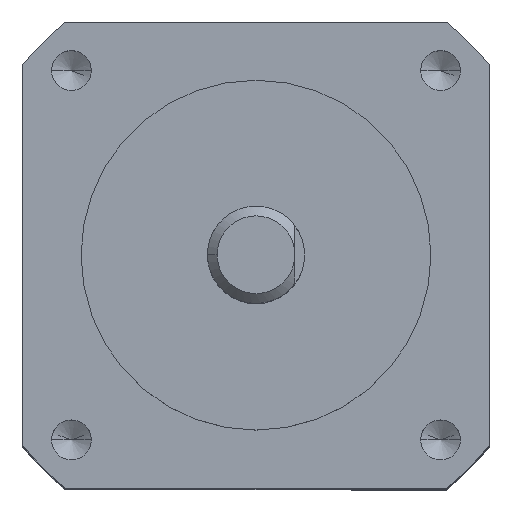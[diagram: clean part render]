
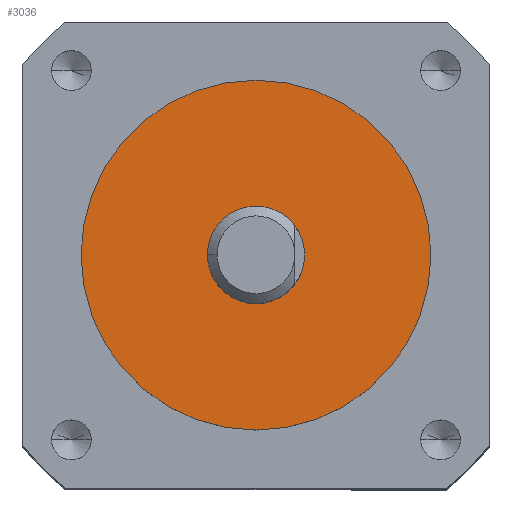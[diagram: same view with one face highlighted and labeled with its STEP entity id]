
A CAD part, top view. The second image highlights one B-rep face of the part: STEP entity #3036.
In plain terms, the highlighted planar face has unit normal (0, 0, 1).
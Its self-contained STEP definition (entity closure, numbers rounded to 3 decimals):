
#113 = CIRCLE ( 'NONE', #358, 9. ) ;
#191 = VERTEX_POINT ( 'NONE', #2534 ) ;
#219 = CARTESIAN_POINT ( 'NONE',  ( 2.5, 0., 1.5 ) ) ;
#344 = EDGE_LOOP ( 'NONE', ( #391, #1770 ) ) ;
#348 = CARTESIAN_POINT ( 'NONE',  ( 0., 0., 1.5 ) ) ;
#358 = AXIS2_PLACEMENT_3D ( 'NONE', #348, #2063, #599 ) ;
#391 = ORIENTED_EDGE ( 'NONE', *, *, #2173, .T. ) ;
#401 = EDGE_CURVE ( 'NONE', #1177, #812, #2716, .T. ) ;
#491 = CARTESIAN_POINT ( 'NONE',  ( -2.5, 0., 1.5 ) ) ;
#496 = AXIS2_PLACEMENT_3D ( 'NONE', #931, #919, #708 ) ;
#536 = FACE_BOUND ( 'NONE', #1650, .T. ) ;
#599 = DIRECTION ( 'NONE',  ( 1., 0., 0. ) ) ;
#665 = PLANE ( 'NONE',  #2402 ) ;
#677 = DIRECTION ( 'NONE',  ( 1., 0., 0. ) ) ;
#688 = DIRECTION ( 'NONE',  ( 0., 0., -1. ) ) ;
#708 = DIRECTION ( 'NONE',  ( 1., 0., 0. ) ) ;
#709 = CARTESIAN_POINT ( 'NONE',  ( 0., 0., 1.5 ) ) ;
#746 = CARTESIAN_POINT ( 'NONE',  ( 0., 0., 1.5 ) ) ;
#812 = VERTEX_POINT ( 'NONE', #219 ) ;
#881 = EDGE_CURVE ( 'NONE', #812, #1177, #2636, .T. ) ;
#916 = AXIS2_PLACEMENT_3D ( 'NONE', #746, #2478, #1007 ) ;
#919 = DIRECTION ( 'NONE',  ( 0., 0., -1. ) ) ;
#931 = CARTESIAN_POINT ( 'NONE',  ( 0., 0., 1.5 ) ) ;
#1007 = DIRECTION ( 'NONE',  ( 1., 0., 0. ) ) ;
#1167 = DIRECTION ( 'NONE',  ( 1., 0., 0. ) ) ;
#1177 = VERTEX_POINT ( 'NONE', #491 ) ;
#1312 = CARTESIAN_POINT ( 'NONE',  ( 9., 0., 1.5 ) ) ;
#1341 = ORIENTED_EDGE ( 'NONE', *, *, #881, .T. ) ;
#1650 = EDGE_LOOP ( 'NONE', ( #3138, #1341 ) ) ;
#1762 = FACE_OUTER_BOUND ( 'NONE', #344, .T. ) ;
#1770 = ORIENTED_EDGE ( 'NONE', *, *, #1971, .T. ) ;
#1971 = EDGE_CURVE ( 'NONE', #2473, #191, #2804, .T. ) ;
#2063 = DIRECTION ( 'NONE',  ( 0., 0., 1. ) ) ;
#2137 = CARTESIAN_POINT ( 'NONE',  ( 0., 0., 1.5 ) ) ;
#2173 = EDGE_CURVE ( 'NONE', #191, #2473, #113, .T. ) ;
#2402 = AXIS2_PLACEMENT_3D ( 'NONE', #2137, #2623, #1167 ) ;
#2473 = VERTEX_POINT ( 'NONE', #1312 ) ;
#2478 = DIRECTION ( 'NONE',  ( 0., 0., 1. ) ) ;
#2534 = CARTESIAN_POINT ( 'NONE',  ( -9., 0., 1.5 ) ) ;
#2623 = DIRECTION ( 'NONE',  ( 0., 0., 1. ) ) ;
#2636 = CIRCLE ( 'NONE', #496, 2.5 ) ;
#2716 = CIRCLE ( 'NONE', #2806, 2.5 ) ;
#2804 = CIRCLE ( 'NONE', #916, 9. ) ;
#2806 = AXIS2_PLACEMENT_3D ( 'NONE', #709, #688, #677 ) ;
#3036 = ADVANCED_FACE ( 'NONE', ( #1762, #536 ), #665, .T. ) ;
#3138 = ORIENTED_EDGE ( 'NONE', *, *, #401, .T. ) ;
